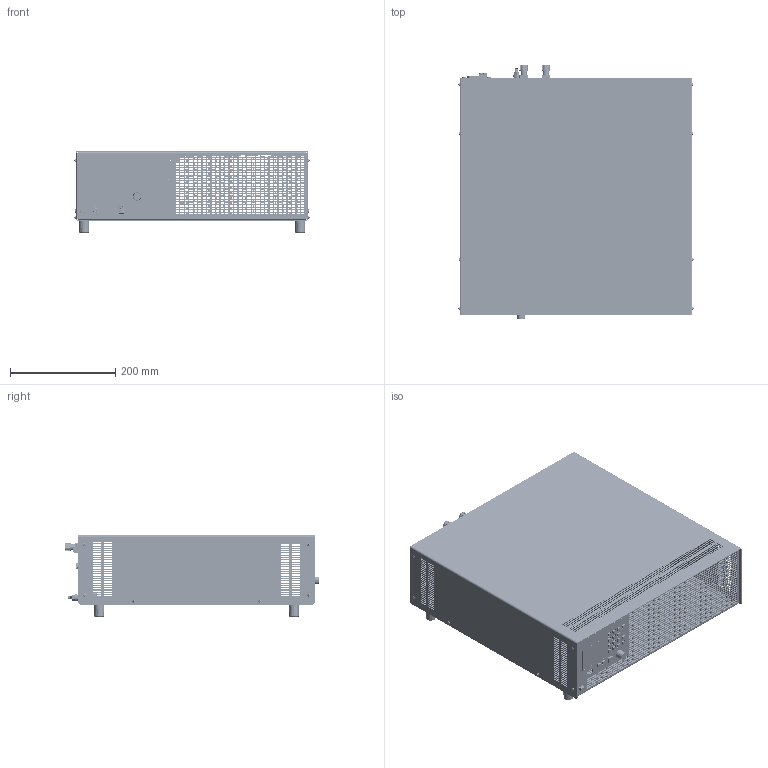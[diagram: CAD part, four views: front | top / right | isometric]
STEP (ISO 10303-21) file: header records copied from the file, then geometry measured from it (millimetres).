
FILE_DESCRIPTION(('STEP AP214'),'1');
FILE_NAME('PLI_M13_19Z_3HE_BPK4_30L_BRB_3D_01.step','2019-02-05T06:29:47',(' '),(' '),'Spatial InterOp 3D',' ',' ');
FILE_SCHEMA(('AUTOMOTIVE_DESIGN { 1 0 10303 214 1 1 1 1 }'));
Length unit declared in the file: millimetre
Products named in the file (1): 1
Bounding box: 446.98 x 483.5 x 154.99 mm (x, y, z)
Volume: 486690.7 mm3; surface area: 1329056.3 mm2
Topology: 121 solids, 2359 shells, 11788 faces, 38228 edges, 29336 vertices
Faces by surface type: plane 7401, cylinder 2108, cone 1704, torus 240, bspline 205, sphere 128, extrusion 2
Entity records: 560994 total; most frequent: CARTESIAN_POINT 109815, DIRECTION 72740, ORIENTED_EDGE 61960, EDGE_CURVE 37374, VECTOR 29470, LINE 29468, VERTEX_POINT 28339, AXIS2_PLACEMENT_3D 21635
